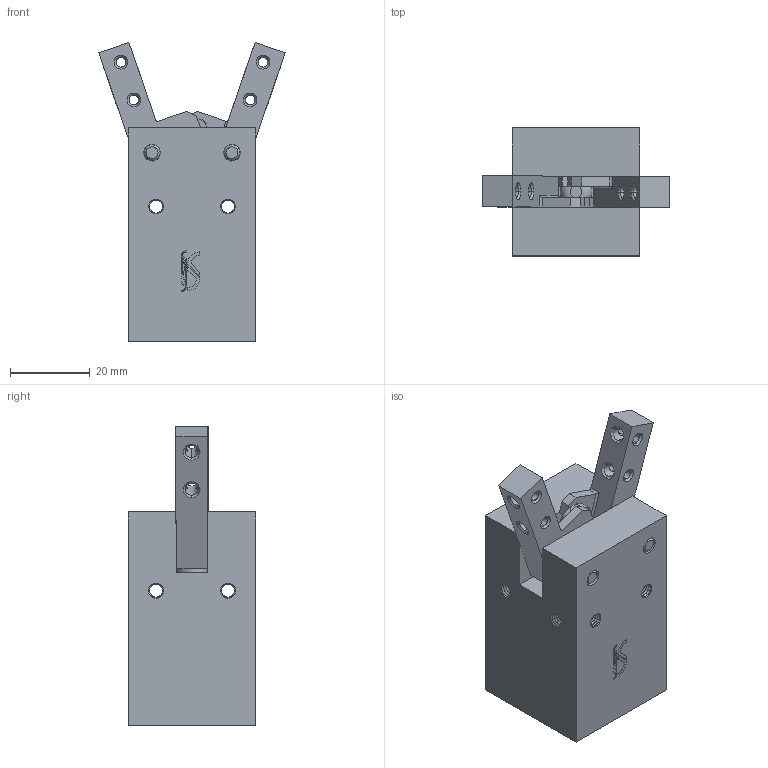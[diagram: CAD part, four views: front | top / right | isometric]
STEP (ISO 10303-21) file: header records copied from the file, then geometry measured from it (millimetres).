
FILE_DESCRIPTION (( 'STEP AP214' ), '1' );
FILE_NAME ('3D MH Ø 20.STEP', '2015-05-08T08:34:36', ( '' ), ( '' ), 'SwSTEP 2.0', 'SolidWorks 2014', '' );
FILE_SCHEMA (( 'AUTOMOTIVE_DESIGN' ));
Length unit declared in the file: millimetre
Products named in the file (8): 3D MH ﾘ 20; BODY MH ﾘ 20; MH ﾘ 20 JAW; PISTON ROD MH ﾘ 20
Assembly tree (4 placements, depth 2):
  3D MH ﾘ 20
    BODY MH ﾘ 20
    PISTON ROD MH ﾘ 20
    MH ﾘ 20 JAW  x2
  MH ﾘ 20 JAW
  PISTON ROD MH ﾘ 20
  BODY MH ﾘ 20
  MH ﾘ 20 JAW
Bounding box: 46.74 x 32 x 74.91 mm (x, y, z)
Volume: 52112.5 mm3; surface area: 19854.1 mm2
Topology: 4 solids, 4 shells, 718 faces, 1711 edges, 1011 vertices
Faces by surface type: cone 457, plane 156, cylinder 101, torus 4
Entity records: 26353 total; most frequent: CARTESIAN_POINT 3815, DIRECTION 3414, ORIENTED_EDGE 3132, EDGE_CURVE 1566, AXIS2_PLACEMENT_3D 1293, VERTEX_POINT 918, VECTOR 828, LINE 828
